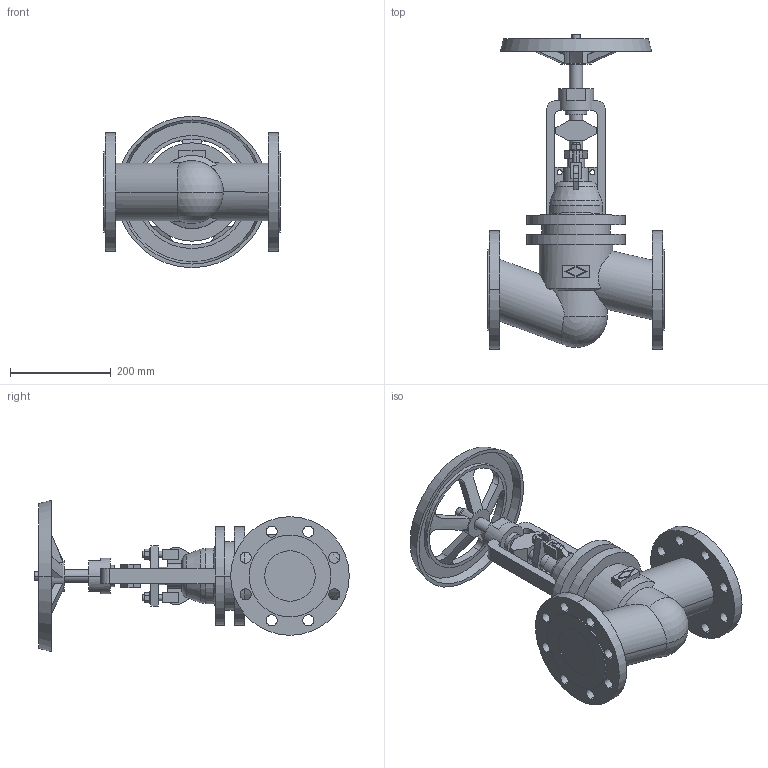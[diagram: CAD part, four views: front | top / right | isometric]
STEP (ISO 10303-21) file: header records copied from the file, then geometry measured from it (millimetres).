
FILE_DESCRIPTION(('OneSpaceDesigner STEP Export'),'2;1');
FILE_NAME('c000003765.stp','2009-06-16T11:01:26',(''),(''),'OneSpace Designer STEP processor for AP214 (Solid Model)','OneSpace Modeling 15.50B 03-Nov-2007 (C) CoCreate Software GmbH','');
FILE_SCHEMA(('AUTOMOTIVE_DESIGN { 1 0 10303 214 1 1 1 1 }'));
Length unit declared in the file: millimetre
Products named in the file (1): 1
Bounding box: 350 x 623.4 x 300 mm (x, y, z)
Volume: 9776507.2 mm3; surface area: 722983.9 mm2
Topology: 1 solids, 1 shells, 310 faces, 822 edges, 537 vertices
Faces by surface type: plane 149, cylinder 125, cone 22, torus 12, sphere 2
Entity records: 12268 total; most frequent: CARTESIAN_POINT 2491, ORIENTED_EDGE 1640, DIRECTION 1335, EDGE_CURVE 820, VERTEX_POINT 537, AXIS2_PLACEMENT_3D 454, VECTOR 427, LINE 427
